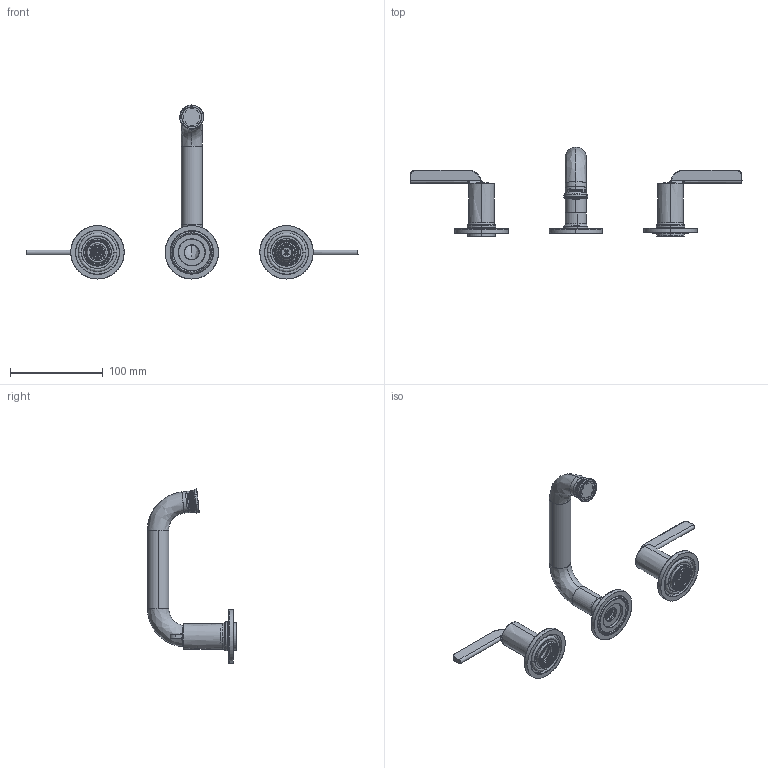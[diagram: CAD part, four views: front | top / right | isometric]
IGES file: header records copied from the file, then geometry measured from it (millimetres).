
Start section: SolidWorks IGES file using analytic representation for surfaces
Global section: file name: W:\mliu8\project\ADHOC-02291\sku_ausq08series_igs\sku_ausq08series_igs.IGS; native system: SolidWorks 2023; preprocessor: SolidWorks 2023; author: mliu8; date: 240724.161939; units: millimetre
Bounding box: 357.68 x 96.06 x 187.53 mm (x, y, z)
Surface area: 95536.5 mm2 (no closed solid volume)
Topology: 0 solids, 0 shells, 1380 faces, 18719 edges, 18689 vertices
Faces by surface type: bspline 793, revolution 587
